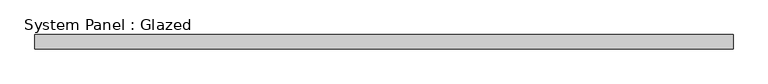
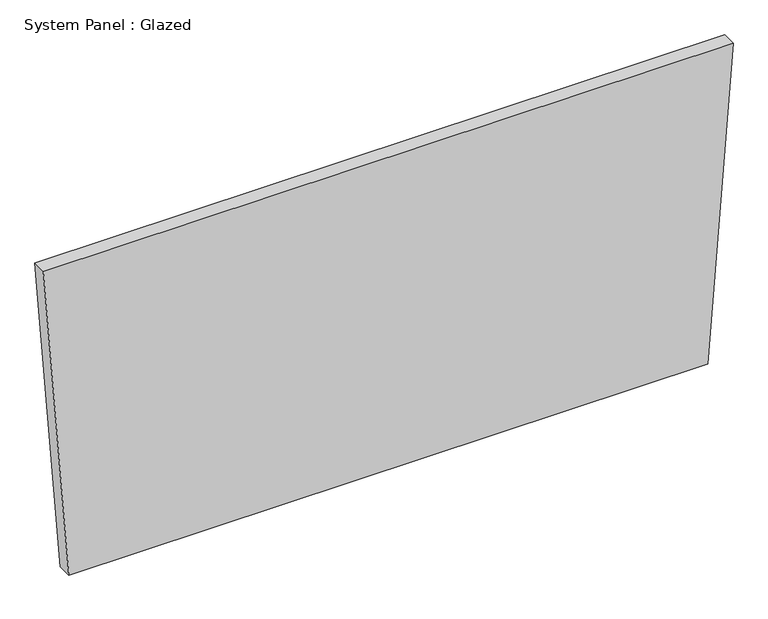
"""IFC4 building model written with IfcOpenShell, lengths in millimetres: plate geometry, System Panel : Glazed."""

from ifc_helpers import new_model, si_unit, frame, origin, place, context, project, spatial, polyline, outline, extrude, source, transform, mapped, element, save


def system_panel_glazed_c234d933(model_context):
    return source(origin(), model_context, "Body", "SweptSolid", [
        extrude(outline(polyline([(0.0, -563.151091), (0.0, 563.151091), (582.3974987, 608.0374712), (582.3974987, -608.0374712), (0.0, -563.151091)])), frame((0.0, 19.05, 0.0), z_axis=(0.0, 1.0, 0.0), x_axis=(0.0, 0.0, 1.0)), (0.0, 0.0, 1.0), 25.4),
    ])


if __name__ == "__main__":
    model = new_model("IFC4")
    model_context = context("Model", 3, world=origin())
    ifc_project = project(units=[si_unit("LENGTHUNIT", "METRE", prefix="MILLI")], contexts=[model_context])
    site = spatial("IfcSite", under=ifc_project)
    building = spatial("IfcBuilding", under=site)
    placement = place(None, origin())
    system_panel_glazed_shape = system_panel_glazed_c234d933(model_context)
    element("IfcPlate", 1, ObjectType="System Panel : Glazed", at=placement, inside=building, context=model_context, shape_type="MappedRepresentation", body=[
        mapped(system_panel_glazed_shape, transform((0.0, 0.0, 0.0), x_axis=(1.0, 0.0, 0.0), y_axis=(0.0, 1.0, 0.0), z_axis=(0.0, 0.0, 1.0))),
    ])
    save(model, "model.ifc")
